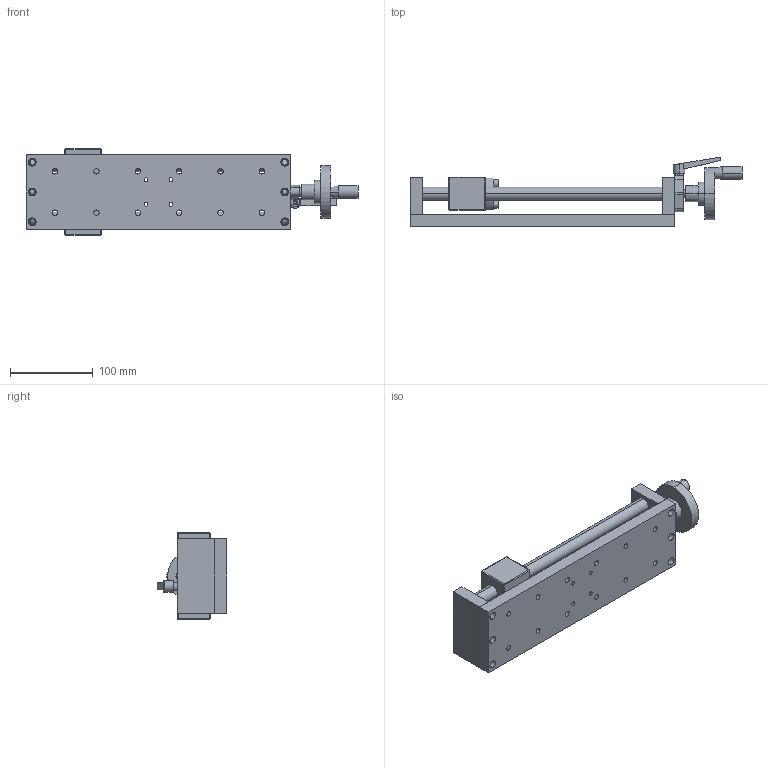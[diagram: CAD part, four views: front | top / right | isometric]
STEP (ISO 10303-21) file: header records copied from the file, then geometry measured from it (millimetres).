
FILE_DESCRIPTION (( 'STEP AP203' ), '1' );
FILE_NAME ('PT-LX200.STEP', '2022-08-21T09:34:18', ( '' ), ( '' ), 'SwSTEP 2.0', 'SolidWorks 2017', '' );
FILE_SCHEMA (( 'CONFIG_CONTROL_DESIGN' ));
Length unit declared in the file: millimetre
Products named in the file (1): PT-LX200
Bounding box: 401 x 84.34 x 104 mm (x, y, z)
Surface area: 183188.4 mm2 (no closed solid volume)
Topology: 0 solids, 26 shells, 445 faces, 1286 edges, 867 vertices
Faces by surface type: plane 180, cylinder 165, bspline 76, sphere 8, cone 8, torus 8
Entity records: 18173 total; most frequent: CARTESIAN_POINT 6630, ORIENTED_EDGE 2279, DIRECTION 2269, EDGE_CURVE 1274, VERTEX_POINT 867, AXIS2_PLACEMENT_3D 794, LINE 681, VECTOR 681
